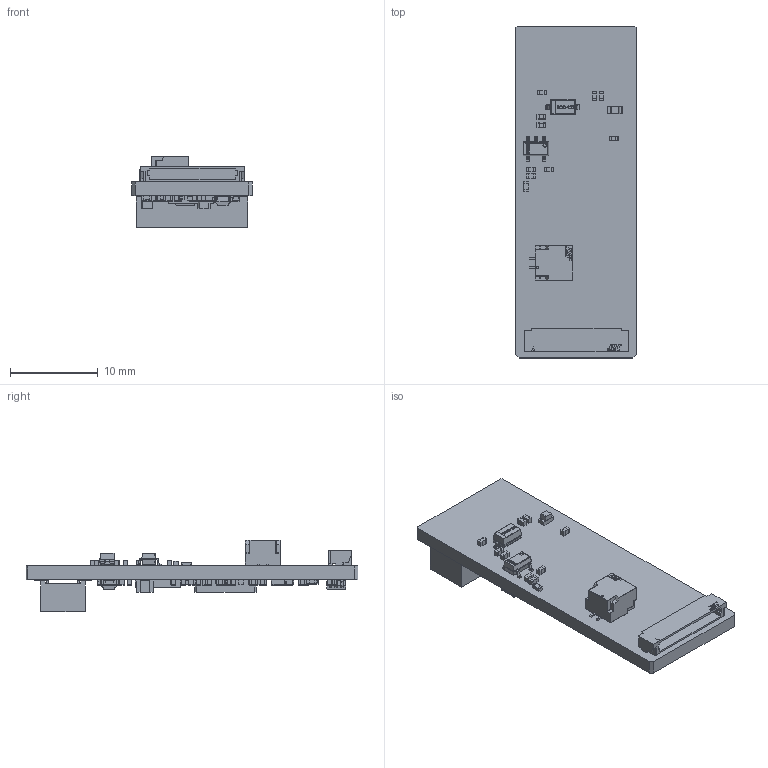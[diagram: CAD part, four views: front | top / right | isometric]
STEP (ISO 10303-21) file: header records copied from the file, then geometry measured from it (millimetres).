
FILE_DESCRIPTION(('STEP AP214'),'1');
FILE_NAME('ZYMKEY 5 Z052-01-000-A2.stp','2026-08-04T18:31:46',(' '),(' '),'Spatial InterOp 3D',' ',' ');
FILE_SCHEMA(('AUTOMOTIVE_DESIGN { 1 0 10303 214 1 1 1 1 }'));
Length unit declared in the file: metre
Products named in the file (157): ZYMKEY 5 Z052-01-000-A2; Board; L2; 45631; 45631-0; 45631-1; R12; User Library-CAPC1005X06; R4; C22; C21; R25; R23; D5; User Library-SOT363-2; Cap_Murata_GRT21BD71A226ME13L_eec; Terminals; Center; Murata; C20; R26; R31; R29; R28; Terminal; Open CASCADE STEP translator 6.8 9.2.1; 610168176; Mid_Body; Mark; R27; 665233728; Extruded; C19; 665233920; Extruded-2; IC_Diodes_Inc_AP2127K-3_3TRG1_eec; IC_BODY; IC_LEG; circle; Diodes Incorporated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
Assembly tree (215 placements, depth 5):
  ZYMKEY 5 Z052-01-000-A2
    Board
    L2
      45631
      45631-0
      45631-1
    R12
      User Library-CAPC1005X06
    R4
      User Library-CAPC1005X06
    C22
      User Library-CAPC1005X06
    C21
      User Library-CAPC1005X06
    R25
      User Library-CAPC1005X06
    R23
      User Library-CAPC1005X06
    D5
      User Library-SOT363-2
    C20
      Cap_Murata_GRT21BD71A226ME13L_eec
        Terminals
        Center
        Murata
    R26
      User Library-CAPC1005X06
    R31
      User Library-CAPC1005X06
    R29
      User Library-CAPC1005X06
    R28
      User Library-CAPC1005X06
    R27
      610168176
        Terminal
          Open CASCADE STEP translator 6.8 9.2.1
        Terminal
          Open CASCADE STEP translator 6.8 9.2.1
        Mid_Body
        Mark
    C19
      665233728
        Extruded
      665233728
        Extruded
      665233920
        Extruded-2
    U1
      IC_Diodes_Inc_AP2127K-3_3TRG1_eec
        IC_BODY
        IC_LEG  x3
        circle
        Diodes Incorporated
        IC_LEG_MIR4  x2
    J1
      HLE-105-02-F-DV
        HLE-105-02-DV_socket
        C-132-12-05-F-DV
        C-132-12-05-F-DV2
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Bounding box: 13.72 x 37.87 x 8.13 mm (x, y, z)
Volume: 1638.4 mm3; surface area: 6603.3 mm2
Topology: 185 solids, 185 shells, 4676 faces, 11151 edges, 6940 vertices
Faces by surface type: plane 2462, cylinder 1467, sphere 445, bspline 248, torus 54
Entity records: 114260 total; most frequent: CARTESIAN_POINT 22167, ORIENTED_EDGE 13614, DIRECTION 12942, EDGE_CURVE 6807, LINE 4788, VECTOR 4788, VERTEX_POINT 4357, AXIS2_PLACEMENT_3D 4077
